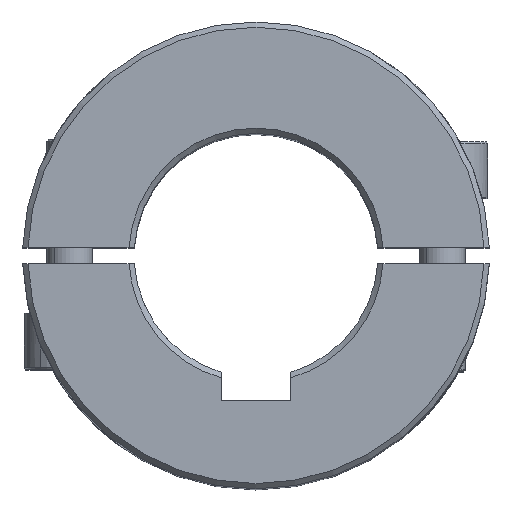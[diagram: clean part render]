
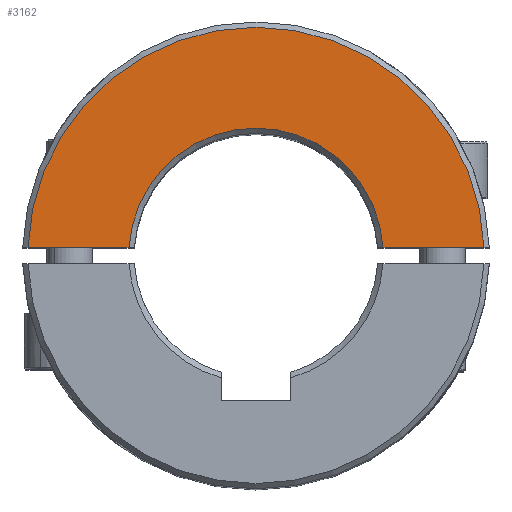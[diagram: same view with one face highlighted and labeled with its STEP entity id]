
A CAD part, top view. The second image highlights one B-rep face of the part: STEP entity #3162.
In plain terms, the highlighted planar face has unit normal (0, 0, 1).
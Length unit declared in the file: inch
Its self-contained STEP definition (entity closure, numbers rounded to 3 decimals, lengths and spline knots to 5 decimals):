
#895=DIRECTION('',(-1.,0.,0.));
#896=VECTOR('',#895,0.5706);
#897=CARTESIAN_POINT('',(1.28804,0.04688,1.87008));
#898=LINE('',#897,#896);
#926=CARTESIAN_POINT('',(0.,0.,1.87008));
#927=DIRECTION('',(0.,0.,-1.));
#928=DIRECTION('',(-0.998,0.065,0.));
#929=AXIS2_PLACEMENT_3D('',#926,#927,#928);
#961=DIRECTION('',(-1.,0.,0.));
#962=VECTOR('',#961,0.5706);
#963=CARTESIAN_POINT('',(-0.71745,0.04688,1.87008));
#964=LINE('',#963,#962);
#968=CARTESIAN_POINT('',(-0.71745,0.04688,1.87008));
#1078=CARTESIAN_POINT('',(0.,0.,1.87008));
#1079=DIRECTION('',(0.,0.,1.));
#1080=DIRECTION('',(0.999,0.036,0.));
#1081=AXIS2_PLACEMENT_3D('',#1078,#1079,#1080);
#2347=CARTESIAN_POINT('',(1.28804,0.04688,1.87008));
#2348=CARTESIAN_POINT('',(0.71745,0.04688,1.87008));
#2349=VERTEX_POINT('',#2347);
#2350=VERTEX_POINT('',#2348);
#2359=VERTEX_POINT('',#968);
#2364=CARTESIAN_POINT('',(-1.28804,0.04688,1.87008));
#2365=VERTEX_POINT('',#2364);
#3151=CARTESIAN_POINT('',(0.,0.,1.87008));
#3152=DIRECTION('',(0.,0.,1.));
#3153=DIRECTION('',(1.,0.,0.));
#3154=AXIS2_PLACEMENT_3D('',#3151,#3152,#3153);
#3155=PLANE('',#3154);
#3156=ORIENTED_EDGE('',*,*,#3049,.F.);
#3157=ORIENTED_EDGE('',*,*,#3069,.T.);
#3158=ORIENTED_EDGE('',*,*,#3145,.F.);
#3159=ORIENTED_EDGE('',*,*,#3021,.T.);
#3160=EDGE_LOOP('',(#3156,#3157,#3158,#3159));
#3161=FACE_OUTER_BOUND('',#3160,.F.);
#930=CIRCLE('',#929,0.71898);
#1082=CIRCLE('',#1081,1.2889);
#3021=EDGE_CURVE('',#2349,#2350,#898,.T.);
#3049=EDGE_CURVE('',#2359,#2350,#930,.T.);
#3069=EDGE_CURVE('',#2359,#2365,#964,.T.);
#3145=EDGE_CURVE('',#2349,#2365,#1082,.T.);
#3162=ADVANCED_FACE('',(#3161),#3155,.T.);
